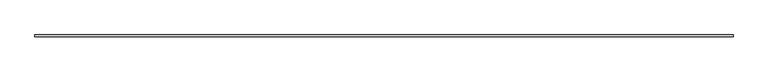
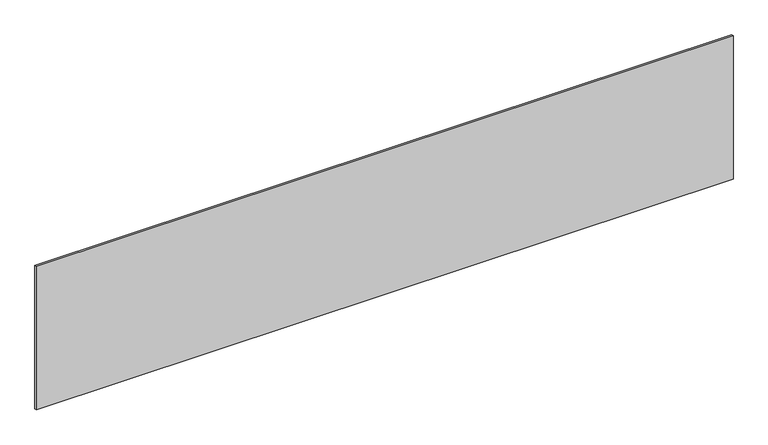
"""IFC4 building model written with IfcOpenShell, lengths in millimetres: proxy geometry, SU.HS.FOOT.3500."""

from ifc_helpers import new_model, si_unit, frame, origin, place, context, project, spatial, polyline, outline, extrude, source, transform, mapped, element, save


def generic_models_f28cb2f1(model_context):
    return source(origin(), model_context, "Body", "SweptSolid", [
        extrude(outline(polyline([(-1841.0, 0.0), (1841.0, 0.0), (1841.0, -10.0), (-1841.0, -10.0), (-1841.0, 0.0)])), frame((0.0, 0.0, -100.0), z_axis=(0.0, 0.0, 1.0), x_axis=(1.0, 0.0, 0.0)), (0.0, 0.0, 1.0), 800.0),
    ])


if __name__ == "__main__":
    model = new_model("IFC4")
    model_context = context("Model", 3, world=origin())
    ifc_project = project(units=[si_unit("LENGTHUNIT", "METRE", prefix="MILLI")], contexts=[model_context])
    site = spatial("IfcSite", under=ifc_project)
    building = spatial("IfcBuilding", under=site)
    placement = place(None, origin())
    generic_models_shape = generic_models_f28cb2f1(model_context)
    element("IfcBuildingElementProxy", 1, Name="SU.HS.FOOT.3500", ObjectType="SU.HS.FOOT.3500", at=placement, inside=building, context=model_context, shape_type="MappedRepresentation", body=[
        mapped(generic_models_shape, transform((0.0, 0.0, 0.0), x_axis=(1.0, 0.0, 0.0), y_axis=(0.0, 1.0, 0.0), z_axis=(0.0, 0.0, 1.0))),
    ])
    save(model, "model.ifc")
